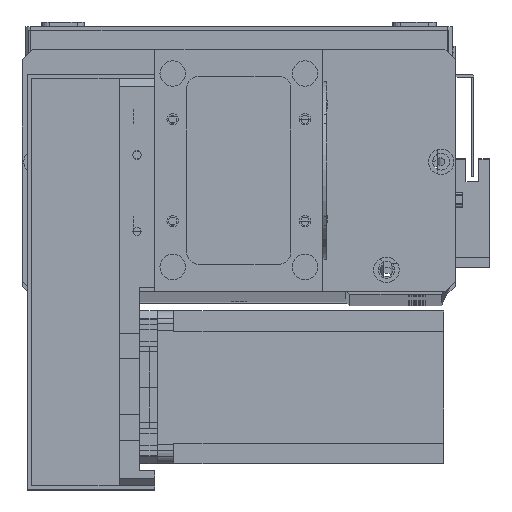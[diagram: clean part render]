
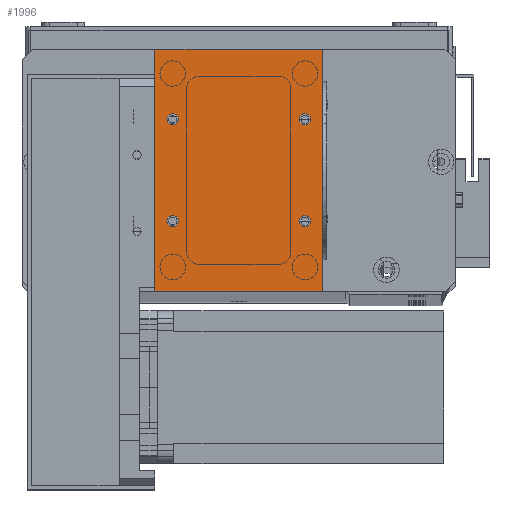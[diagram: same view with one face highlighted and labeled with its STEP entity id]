
A CAD part, top view. The second image highlights one B-rep face of the part: STEP entity #1996.
In plain terms, the highlighted planar face has unit normal (0, 0, 1).
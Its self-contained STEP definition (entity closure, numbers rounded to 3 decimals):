
#599 = DIRECTION ( 'NONE',  ( 1., 0., 0. ) ) ;
#601 = VERTEX_POINT ( 'NONE', #1278 ) ;
#1138 = VERTEX_POINT ( 'NONE', #34118 ) ;
#1278 = CARTESIAN_POINT ( 'NONE',  ( 9.25, 67.5, 2. ) ) ;
#1580 = ORIENTED_EDGE ( 'NONE', *, *, #16241, .F. ) ;
#1996 = ADVANCED_FACE ( 'NONE', ( #26990, #20162, #13890, #5904, #14747 ), #21933, .F. ) ;
#3009 = VERTEX_POINT ( 'NONE', #4743 ) ;
#3780 = DIRECTION ( 'NONE',  ( 1., 0., 0. ) ) ;
#4340 = ORIENTED_EDGE ( 'NONE', *, *, #12411, .F. ) ;
#4726 = CARTESIAN_POINT ( 'NONE',  ( 4.75, 67.5, 2. ) ) ;
#4743 = CARTESIAN_POINT ( 'NONE',  ( 9.25, 27.5, 2. ) ) ;
#5334 = CARTESIAN_POINT ( 'NONE',  ( 4.75, 27.5, 2. ) ) ;
#5904 = FACE_BOUND ( 'NONE', #7829, .T. ) ;
#6191 = EDGE_LOOP ( 'NONE', ( #9771, #12981 ) ) ;
#6678 = CARTESIAN_POINT ( 'NONE',  ( 7., 27.5, 2. ) ) ;
#6795 = CARTESIAN_POINT ( 'NONE',  ( 66., 0., 2. ) ) ;
#6824 = CIRCLE ( 'NONE', #12329, 2.25 ) ;
#6993 = CARTESIAN_POINT ( 'NONE',  ( 0., 0., 2. ) ) ;
#7061 = DIRECTION ( 'NONE',  ( 1., 0., 0. ) ) ;
#7091 = DIRECTION ( 'NONE',  ( 0., 0., 1. ) ) ;
#7389 = ORIENTED_EDGE ( 'NONE', *, *, #28944, .F. ) ;
#7646 = EDGE_LOOP ( 'NONE', ( #14763, #12022, #10229, #14546 ) ) ;
#7661 = CARTESIAN_POINT ( 'NONE',  ( 7., 67.5, 2. ) ) ;
#7804 = EDGE_LOOP ( 'NONE', ( #29445, #7389 ) ) ;
#7810 = ORIENTED_EDGE ( 'NONE', *, *, #26180, .F. ) ;
#7829 = EDGE_LOOP ( 'NONE', ( #7810, #1580 ) ) ;
#7897 = LINE ( 'NONE', #16023, #21224 ) ;
#7921 = VERTEX_POINT ( 'NONE', #22794 ) ;
#8473 = CARTESIAN_POINT ( 'NONE',  ( 61.25, 27.5, 2. ) ) ;
#8702 = EDGE_CURVE ( 'NONE', #16317, #19035, #15261, .T. ) ;
#9245 = CARTESIAN_POINT ( 'NONE',  ( 59., 27.5, 2. ) ) ;
#9348 = DIRECTION ( 'NONE',  ( 1., 0., 0. ) ) ;
#9771 = ORIENTED_EDGE ( 'NONE', *, *, #19162, .F. ) ;
#9778 = VERTEX_POINT ( 'NONE', #28015 ) ;
#10170 = DIRECTION ( 'NONE',  ( 0., 0., 1. ) ) ;
#10229 = ORIENTED_EDGE ( 'NONE', *, *, #17527, .T. ) ;
#10480 = DIRECTION ( 'NONE',  ( 0., 0., 1. ) ) ;
#11269 = CIRCLE ( 'NONE', #26681, 2.25 ) ;
#11725 = CIRCLE ( 'NONE', #20448, 2.25 ) ;
#11912 = DIRECTION ( 'NONE',  ( 1., 0., 0. ) ) ;
#12022 = ORIENTED_EDGE ( 'NONE', *, *, #17488, .T. ) ;
#12329 = AXIS2_PLACEMENT_3D ( 'NONE', #15116, #15002, #14761 ) ;
#12411 = EDGE_CURVE ( 'NONE', #27957, #601, #22269, .T. ) ;
#12528 = CIRCLE ( 'NONE', #21672, 2.25 ) ;
#12547 = AXIS2_PLACEMENT_3D ( 'NONE', #21882, #22001, #21929 ) ;
#12869 = VECTOR ( 'NONE', #3780, 1000. ) ;
#12981 = ORIENTED_EDGE ( 'NONE', *, *, #13180, .F. ) ;
#13180 = EDGE_CURVE ( 'NONE', #1138, #27318, #6824, .T. ) ;
#13217 = DIRECTION ( 'NONE',  ( 1., 0., 0. ) ) ;
#13258 = DIRECTION ( 'NONE',  ( 0., 0., 1. ) ) ;
#13281 = EDGE_CURVE ( 'NONE', #601, #27957, #25439, .T. ) ;
#13339 = CARTESIAN_POINT ( 'NONE',  ( 7., 67.5, 2. ) ) ;
#13631 = VERTEX_POINT ( 'NONE', #24872 ) ;
#13890 = FACE_BOUND ( 'NONE', #6191, .T. ) ;
#14049 = ORIENTED_EDGE ( 'NONE', *, *, #13281, .F. ) ;
#14546 = ORIENTED_EDGE ( 'NONE', *, *, #8702, .T. ) ;
#14747 = FACE_OUTER_BOUND ( 'NONE', #7646, .T. ) ;
#14761 = DIRECTION ( 'NONE',  ( 1., 0., 0. ) ) ;
#14763 = ORIENTED_EDGE ( 'NONE', *, *, #15935, .T. ) ;
#14770 = VERTEX_POINT ( 'NONE', #5334 ) ;
#15002 = DIRECTION ( 'NONE',  ( 0., 0., 1. ) ) ;
#15098 = CARTESIAN_POINT ( 'NONE',  ( 66., 95., 2. ) ) ;
#15116 = CARTESIAN_POINT ( 'NONE',  ( 59., 27.5, 2. ) ) ;
#15261 = LINE ( 'NONE', #29252, #26677 ) ;
#15694 = AXIS2_PLACEMENT_3D ( 'NONE', #25986, #10170, #28558 ) ;
#15935 = EDGE_CURVE ( 'NONE', #19035, #30908, #7897, .T. ) ;
#16023 = CARTESIAN_POINT ( 'NONE',  ( 0., 0., 2. ) ) ;
#16241 = EDGE_CURVE ( 'NONE', #14770, #3009, #12528, .T. ) ;
#16317 = VERTEX_POINT ( 'NONE', #15098 ) ;
#16738 = DIRECTION ( 'NONE',  ( 0., 0., 1. ) ) ;
#16839 = CARTESIAN_POINT ( 'NONE',  ( 0., 95., 2. ) ) ;
#17186 = CARTESIAN_POINT ( 'NONE',  ( 0., 0., 2. ) ) ;
#17488 = EDGE_CURVE ( 'NONE', #30908, #9778, #27627, .T. ) ;
#17527 = EDGE_CURVE ( 'NONE', #9778, #16317, #32794, .T. ) ;
#17560 = CIRCLE ( 'NONE', #17582, 2.25 ) ;
#17582 = AXIS2_PLACEMENT_3D ( 'NONE', #32210, #16738, #599 ) ;
#19035 = VERTEX_POINT ( 'NONE', #16839 ) ;
#19162 = EDGE_CURVE ( 'NONE', #27318, #1138, #11725, .T. ) ;
#19441 = EDGE_CURVE ( 'NONE', #7921, #13631, #11269, .T. ) ;
#19477 = AXIS2_PLACEMENT_3D ( 'NONE', #7661, #7091, #7061 ) ;
#19688 = AXIS2_PLACEMENT_3D ( 'NONE', #13339, #13258, #13217 ) ;
#19966 = VECTOR ( 'NONE', #32871, 1000. ) ;
#20162 = FACE_BOUND ( 'NONE', #7804, .T. ) ;
#20448 = AXIS2_PLACEMENT_3D ( 'NONE', #9245, #27655, #11912 ) ;
#20931 = EDGE_LOOP ( 'NONE', ( #14049, #4340 ) ) ;
#21139 = CIRCLE ( 'NONE', #15694, 2.25 ) ;
#21224 = VECTOR ( 'NONE', #28983, 1000. ) ;
#21672 = AXIS2_PLACEMENT_3D ( 'NONE', #6678, #25185, #9348 ) ;
#21882 = CARTESIAN_POINT ( 'NONE',  ( 0., 0., 2. ) ) ;
#21929 = DIRECTION ( 'NONE',  ( -1., 0., 0. ) ) ;
#21933 = PLANE ( 'NONE',  #12547 ) ;
#22001 = DIRECTION ( 'NONE',  ( 0., 0., -1. ) ) ;
#22269 = CIRCLE ( 'NONE', #19688, 2.25 ) ;
#22794 = CARTESIAN_POINT ( 'NONE',  ( 61.25, 67.5, 2. ) ) ;
#24872 = CARTESIAN_POINT ( 'NONE',  ( 56.75, 67.5, 2. ) ) ;
#25185 = DIRECTION ( 'NONE',  ( 0., 0., 1. ) ) ;
#25439 = CIRCLE ( 'NONE', #19477, 2.25 ) ;
#25986 = CARTESIAN_POINT ( 'NONE',  ( 59., 67.5, 2. ) ) ;
#26180 = EDGE_CURVE ( 'NONE', #3009, #14770, #17560, .T. ) ;
#26270 = CARTESIAN_POINT ( 'NONE',  ( 59., 67.5, 2. ) ) ;
#26677 = VECTOR ( 'NONE', #29365, 1000. ) ;
#26681 = AXIS2_PLACEMENT_3D ( 'NONE', #26270, #10480, #28856 ) ;
#26990 = FACE_BOUND ( 'NONE', #20931, .T. ) ;
#27318 = VERTEX_POINT ( 'NONE', #8473 ) ;
#27627 = LINE ( 'NONE', #17186, #12869 ) ;
#27655 = DIRECTION ( 'NONE',  ( 0., 0., 1. ) ) ;
#27957 = VERTEX_POINT ( 'NONE', #4726 ) ;
#28015 = CARTESIAN_POINT ( 'NONE',  ( 66., 0., 2. ) ) ;
#28558 = DIRECTION ( 'NONE',  ( 1., 0., 0. ) ) ;
#28856 = DIRECTION ( 'NONE',  ( 1., 0., 0. ) ) ;
#28944 = EDGE_CURVE ( 'NONE', #13631, #7921, #21139, .T. ) ;
#28983 = DIRECTION ( 'NONE',  ( 0., -1., 0. ) ) ;
#29252 = CARTESIAN_POINT ( 'NONE',  ( 0., 95., 2. ) ) ;
#29365 = DIRECTION ( 'NONE',  ( -1., 0., 0. ) ) ;
#29445 = ORIENTED_EDGE ( 'NONE', *, *, #19441, .F. ) ;
#30908 = VERTEX_POINT ( 'NONE', #6993 ) ;
#32210 = CARTESIAN_POINT ( 'NONE',  ( 7., 27.5, 2. ) ) ;
#32794 = LINE ( 'NONE', #6795, #19966 ) ;
#32871 = DIRECTION ( 'NONE',  ( 0., 1., 0. ) ) ;
#34118 = CARTESIAN_POINT ( 'NONE',  ( 56.75, 27.5, 2. ) ) ;
